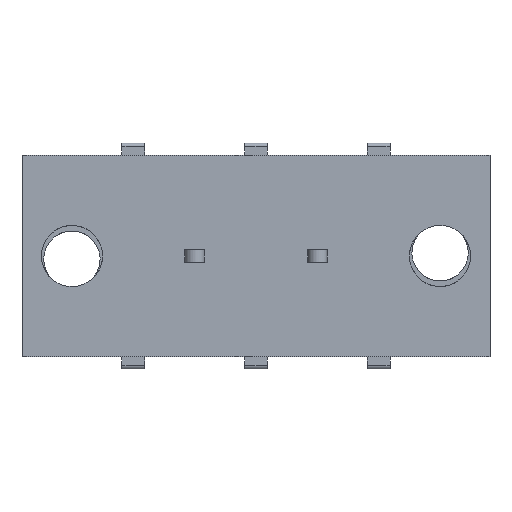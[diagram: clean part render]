
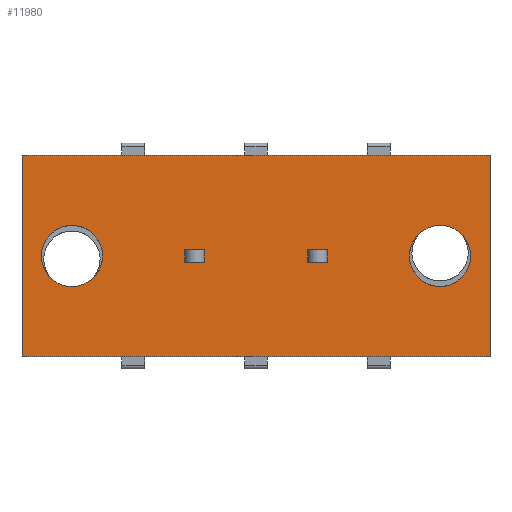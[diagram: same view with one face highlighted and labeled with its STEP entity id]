
A CAD part, front view. The second image highlights one B-rep face of the part: STEP entity #11980.
In plain terms, the highlighted planar face has unit normal (0, -1, 0).
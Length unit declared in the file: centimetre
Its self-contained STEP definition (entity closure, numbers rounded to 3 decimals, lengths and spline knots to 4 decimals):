
#566=CIRCLE('',#19674,0.19);
#636=CIRCLE('',#20000,0.19);
#778=VERTEX_POINT('',#15171);
#779=VERTEX_POINT('',#15172);
#782=VERTEX_POINT('',#15180);
#800=VERTEX_POINT('',#15229);
#1185=VERTEX_POINT('',#16873);
#1186=VERTEX_POINT('',#16875);
#1187=VERTEX_POINT('',#16879);
#1750=VERTEX_POINT('',#19107);
#1751=VERTEX_POINT('',#19109);
#1752=VERTEX_POINT('',#19113);
#1811=VERTEX_POINT('',#19261);
#1812=VERTEX_POINT('',#19262);
#1813=VERTEX_POINT('',#19264);
#1814=VERTEX_POINT('',#19266);
#1947=VECTOR('',#12768,1.);
#1951=VECTOR('',#12773,1.);
#1969=VECTOR('',#12813,1.);
#1971=VECTOR('',#12816,1.);
#2436=VECTOR('',#13460,1.);
#3079=VECTOR('',#14534,1.);
#3141=VECTOR('',#14639,1.);
#3142=VECTOR('',#14641,1.);
#3143=VECTOR('',#14642,1.);
#3144=VECTOR('',#14643,1.);
#3145=VECTOR('',#14644,1.);
#3146=VECTOR('',#14645,1.);
#3307=LINE('',#15170,#1947);
#3311=LINE('',#15179,#1951);
#3329=LINE('',#15228,#1969);
#3331=LINE('',#15232,#1971);
#3796=LINE('',#16874,#2436);
#4439=LINE('',#19108,#3079);
#4501=LINE('',#19258,#3141);
#4502=LINE('',#19260,#3142);
#4503=LINE('',#19263,#3143);
#4504=LINE('',#19265,#3144);
#4505=LINE('',#19267,#3145);
#4506=LINE('',#19268,#3146);
#4739=EDGE_CURVE('',#778,#779,#3307,.T.);
#4743=EDGE_CURVE('',#782,#778,#3311,.T.);
#4767=EDGE_CURVE('',#800,#782,#3329,.T.);
#4769=EDGE_CURVE('',#779,#800,#3331,.T.);
#5346=EDGE_CURVE('',#1186,#1185,#3796,.T.);
#5348=EDGE_CURVE('',#1187,#1187,#566,.T.);
#6198=EDGE_CURVE('',#1751,#1750,#4439,.T.);
#6200=EDGE_CURVE('',#1752,#1752,#636,.T.);
#6274=EDGE_CURVE('',#1186,#1750,#4501,.T.);
#6275=EDGE_CURVE('',#1811,#1812,#4502,.T.);
#6276=EDGE_CURVE('',#1813,#1811,#4503,.T.);
#6277=EDGE_CURVE('',#1814,#1813,#4504,.T.);
#6278=EDGE_CURVE('',#1812,#1814,#4505,.T.);
#6279=EDGE_CURVE('',#1185,#1751,#4506,.T.);
#9709=ORIENTED_EDGE('',*,*,#4743,.T.);
#9710=ORIENTED_EDGE('',*,*,#4739,.T.);
#9711=ORIENTED_EDGE('',*,*,#4769,.T.);
#9712=ORIENTED_EDGE('',*,*,#4767,.T.);
#9713=ORIENTED_EDGE('',*,*,#5348,.T.);
#9714=ORIENTED_EDGE('',*,*,#6200,.T.);
#9715=ORIENTED_EDGE('',*,*,#6275,.F.);
#9716=ORIENTED_EDGE('',*,*,#6276,.F.);
#9717=ORIENTED_EDGE('',*,*,#6277,.F.);
#9718=ORIENTED_EDGE('',*,*,#6278,.F.);
#9719=ORIENTED_EDGE('',*,*,#6274,.F.);
#9720=ORIENTED_EDGE('',*,*,#5346,.T.);
#9721=ORIENTED_EDGE('',*,*,#6279,.T.);
#9722=ORIENTED_EDGE('',*,*,#6198,.T.);
#10580=EDGE_LOOP('',(#9709,#9710,#9711,#9712));
#10581=EDGE_LOOP('',(#9713));
#10582=EDGE_LOOP('',(#9714));
#10583=EDGE_LOOP('',(#9715,#9716,#9717,#9718));
#10584=EDGE_LOOP('',(#9719,#9720,#9721,#9722));
#11310=FACE_BOUND('',#10580,.T.);
#11311=FACE_BOUND('',#10581,.T.);
#11312=FACE_BOUND('',#10582,.T.);
#11313=FACE_BOUND('',#10583,.T.);
#11314=FACE_BOUND('',#10584,.T.);
#11980=ADVANCED_FACE('',(#11310,#11311,#11312,#11313,#11314),#12461,.T.);
#12461=PLANE('',#20027);
#12768=DIRECTION('',(0.,0.,1.));
#12773=DIRECTION('',(-1.,0.,0.));
#12813=DIRECTION('',(0.,0.,-1.));
#12816=DIRECTION('',(1.,0.,0.));
#13460=DIRECTION('',(0.,0.,1.));
#13464=DIRECTION('',(0.,1.,0.));
#13465=DIRECTION('',(0.19,0.,0.));
#14534=DIRECTION('',(0.,0.,-1.));
#14538=DIRECTION('',(0.,1.,0.));
#14539=DIRECTION('',(-0.19,0.,0.));
#14639=DIRECTION('',(-1.,0.,0.));
#14640=DIRECTION('',(0.,-1.,0.));
#14641=DIRECTION('',(1.,0.,0.));
#14642=DIRECTION('',(0.,0.,-1.));
#14643=DIRECTION('',(-1.,0.,0.));
#14644=DIRECTION('',(0.,0.,1.));
#14645=DIRECTION('',(-1.,0.,0.));
#15170=CARTESIAN_POINT('',(0.702,-0.53,-0.1675));
#15171=CARTESIAN_POINT('',(0.702,-0.53,-0.04));
#15172=CARTESIAN_POINT('',(0.702,-0.53,0.04));
#15179=CARTESIAN_POINT('',(0.155,-0.53,-0.04));
#15180=CARTESIAN_POINT('',(0.822,-0.53,-0.04));
#15228=CARTESIAN_POINT('',(0.822,-0.53,-0.1675));
#15229=CARTESIAN_POINT('',(0.822,-0.53,0.04));
#15232=CARTESIAN_POINT('',(0.155,-0.53,0.04));
#16873=CARTESIAN_POINT('',(1.834,-0.53,0.625));
#16874=CARTESIAN_POINT('',(1.834,-0.53,-0.625));
#16875=CARTESIAN_POINT('',(1.834,-0.53,-0.625));
#16878=CARTESIAN_POINT('',(1.524,-0.53,0.));
#16879=CARTESIAN_POINT('',(1.334,-0.53,0.));
#19107=CARTESIAN_POINT('',(-1.072,-0.53,-0.625));
#19108=CARTESIAN_POINT('',(-1.072,-0.53,0.625));
#19109=CARTESIAN_POINT('',(-1.072,-0.53,0.625));
#19112=CARTESIAN_POINT('',(-0.762,-0.53,0.));
#19113=CARTESIAN_POINT('',(-0.572,-0.53,0.));
#19258=CARTESIAN_POINT('',(-0.452,-0.53,-0.625));
#19259=CARTESIAN_POINT('',(-0.452,-0.53,0.));
#19260=CARTESIAN_POINT('',(-0.155,-0.53,-0.04));
#19261=CARTESIAN_POINT('',(-0.06,-0.53,-0.04));
#19262=CARTESIAN_POINT('',(0.06,-0.53,-0.04));
#19263=CARTESIAN_POINT('',(-0.06,-0.53,-0.1675));
#19264=CARTESIAN_POINT('',(-0.06,-0.53,0.04));
#19265=CARTESIAN_POINT('',(-0.155,-0.53,0.04));
#19266=CARTESIAN_POINT('',(0.06,-0.53,0.04));
#19267=CARTESIAN_POINT('',(0.06,-0.53,-0.1675));
#19268=CARTESIAN_POINT('',(-0.452,-0.53,0.625));
#19674=AXIS2_PLACEMENT_3D('',#16878,#13464,#13465);
#20000=AXIS2_PLACEMENT_3D('',#19112,#14538,#14539);
#20027=AXIS2_PLACEMENT_3D('',#19259,#14640,$);
